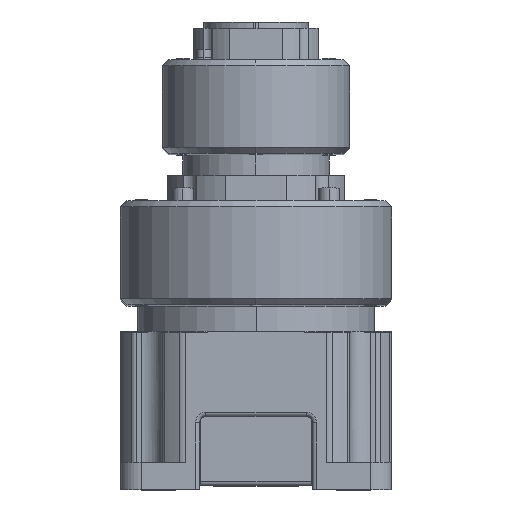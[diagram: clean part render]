
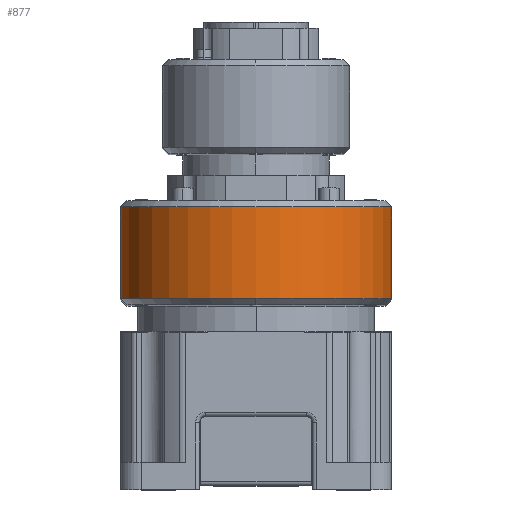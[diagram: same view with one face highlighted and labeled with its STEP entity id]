
A CAD part, top view. The second image highlights one B-rep face of the part: STEP entity #877.
In plain terms, the highlighted cylindrical face has radius 65 mm (diameter 130 mm), a partial arc.
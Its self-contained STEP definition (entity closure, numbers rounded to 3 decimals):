
#51 = LINE ( 'NONE', #6552, #18163 ) ;
#877 = ADVANCED_FACE ( 'NONE', ( #17883 ), #19952, .T. ) ;
#1024 = DIRECTION ( 'NONE',  ( 0., 0., -1. ) ) ;
#1902 = CARTESIAN_POINT ( 'NONE',  ( 350., 65., 3. ) ) ;
#2446 = CIRCLE ( 'NONE', #17886, 65. ) ;
#3809 = CARTESIAN_POINT ( 'NONE',  ( 415., 0., 3. ) ) ;
#3987 = DIRECTION ( 'NONE',  ( 1., 0., 0. ) ) ;
#4206 = DIRECTION ( 'NONE',  ( 0., 0., -1. ) ) ;
#5100 = VERTEX_POINT ( 'NONE', #27359 ) ;
#5318 = DIRECTION ( 'NONE',  ( -1., 0., 0. ) ) ;
#6456 = DIRECTION ( 'NONE',  ( 1., 0., 0. ) ) ;
#6552 = CARTESIAN_POINT ( 'NONE',  ( 350., 65., 50. ) ) ;
#7457 = VERTEX_POINT ( 'NONE', #1902 ) ;
#7475 = EDGE_CURVE ( 'NONE', #24424, #5100, #2446, .T. ) ;
#7937 = EDGE_LOOP ( 'NONE', ( #18474, #11829, #9791, #10236, #15619 ) ) ;
#8072 = EDGE_CURVE ( 'NONE', #14626, #14905, #14830, .T. ) ;
#8501 = DIRECTION ( 'NONE',  ( 0., 0., -1. ) ) ;
#8800 = EDGE_CURVE ( 'NONE', #5100, #14626, #22239, .T. ) ;
#9327 = CARTESIAN_POINT ( 'NONE',  ( 350., 65., 47. ) ) ;
#9526 = DIRECTION ( 'NONE',  ( 0., 0., -1. ) ) ;
#9791 = ORIENTED_EDGE ( 'NONE', *, *, #10217, .T. ) ;
#10217 = EDGE_CURVE ( 'NONE', #14905, #7457, #20102, .T. ) ;
#10236 = ORIENTED_EDGE ( 'NONE', *, *, #16549, .F. ) ;
#11283 = AXIS2_PLACEMENT_3D ( 'NONE', #22916, #27323, #3987 ) ;
#11473 = DIRECTION ( 'NONE',  ( 0., 0., 1. ) ) ;
#11801 = VECTOR ( 'NONE', #9526, 1000. ) ;
#11829 = ORIENTED_EDGE ( 'NONE', *, *, #8072, .T. ) ;
#12134 = CARTESIAN_POINT ( 'NONE',  ( 350., 0., 47. ) ) ;
#12370 = AXIS2_PLACEMENT_3D ( 'NONE', #26440, #1024, #5318 ) ;
#14626 = VERTEX_POINT ( 'NONE', #24332 ) ;
#14830 = CIRCLE ( 'NONE', #21904, 65. ) ;
#14905 = VERTEX_POINT ( 'NONE', #3809 ) ;
#15619 = ORIENTED_EDGE ( 'NONE', *, *, #7475, .T. ) ;
#16549 = EDGE_CURVE ( 'NONE', #24424, #7457, #51, .T. ) ;
#17283 = CARTESIAN_POINT ( 'NONE',  ( 350., 0., 3. ) ) ;
#17883 = FACE_OUTER_BOUND ( 'NONE', #7937, .T. ) ;
#17886 = AXIS2_PLACEMENT_3D ( 'NONE', #12134, #8501, #6456 ) ;
#18163 = VECTOR ( 'NONE', #4206, 1000. ) ;
#18474 = ORIENTED_EDGE ( 'NONE', *, *, #8800, .T. ) ;
#19952 = CYLINDRICAL_SURFACE ( 'NONE', #12370, 65. ) ;
#20102 = CIRCLE ( 'NONE', #11283, 65. ) ;
#21904 = AXIS2_PLACEMENT_3D ( 'NONE', #17283, #11473, #25835 ) ;
#22239 = LINE ( 'NONE', #26795, #11801 ) ;
#22916 = CARTESIAN_POINT ( 'NONE',  ( 350., 0., 3. ) ) ;
#24332 = CARTESIAN_POINT ( 'NONE',  ( 350., -65., 3. ) ) ;
#24424 = VERTEX_POINT ( 'NONE', #9327 ) ;
#25835 = DIRECTION ( 'NONE',  ( 1., 0., 0. ) ) ;
#26440 = CARTESIAN_POINT ( 'NONE',  ( 350., 0., 50. ) ) ;
#26795 = CARTESIAN_POINT ( 'NONE',  ( 350., -65., 50. ) ) ;
#27323 = DIRECTION ( 'NONE',  ( 0., 0., 1. ) ) ;
#27359 = CARTESIAN_POINT ( 'NONE',  ( 350., -65., 47. ) ) ;
